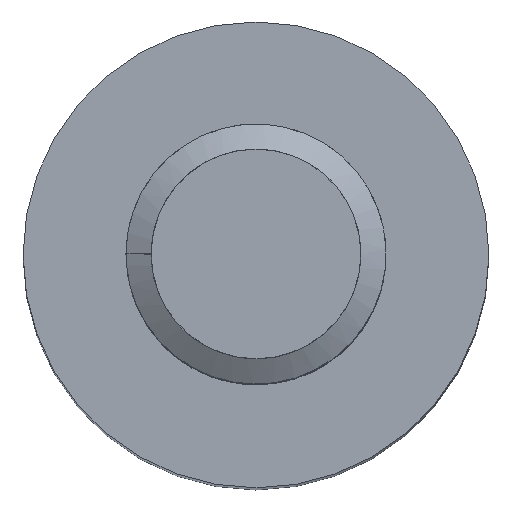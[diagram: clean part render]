
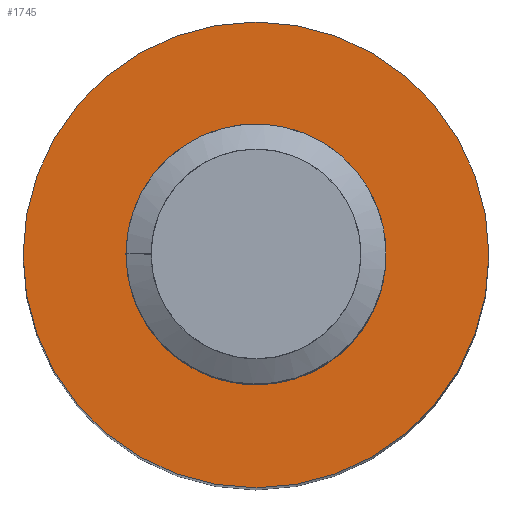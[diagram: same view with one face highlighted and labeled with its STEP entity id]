
A CAD part, top view. The second image highlights one B-rep face of the part: STEP entity #1745.
In plain terms, the highlighted planar face has unit normal (0, 0, 1).
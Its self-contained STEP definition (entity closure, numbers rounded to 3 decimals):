
#20 = DIRECTION ( 'NONE',  ( 0., 0., 1. ) ) ;
#70 = DIRECTION ( 'NONE',  ( 1., 0., 0. ) ) ;
#73 = CARTESIAN_POINT ( 'NONE',  ( -1.128, -2.304, 26.5 ) ) ;
#83 = CARTESIAN_POINT ( 'NONE',  ( 0., 0., 26.5 ) ) ;
#85 = CARTESIAN_POINT ( 'NONE',  ( -2.27, -0.418, 26.5 ) ) ;
#114 = CARTESIAN_POINT ( 'NONE',  ( 1.027, 2.15, 26.5 ) ) ;
#220 = CARTESIAN_POINT ( 'NONE',  ( 0., 2.25, 26.5 ) ) ;
#224 = DIRECTION ( 'NONE',  ( 1., 0., 0. ) ) ;
#286 = CARTESIAN_POINT ( 'NONE',  ( 0.041, -2.695, 26.5 ) ) ;
#306 = CARTESIAN_POINT ( 'NONE',  ( -1.871, -1.588, 26.5 ) ) ;
#307 = CARTESIAN_POINT ( 'NONE',  ( 1.407, -2.439, 26.5 ) ) ;
#342 = CARTESIAN_POINT ( 'NONE',  ( 2.579, -1.068, 26.5 ) ) ;
#368 = CARTESIAN_POINT ( 'NONE',  ( 0., 2.25, 26.5 ) ) ;
#489 = DIRECTION ( 'NONE',  ( 1., 0., 0. ) ) ;
#533 = CARTESIAN_POINT ( 'NONE',  ( -0.949, -2.408, 26.5 ) ) ;
#591 = CARTESIAN_POINT ( 'NONE',  ( 2.639, -0.868, 26.5 ) ) ;
#604 = CARTESIAN_POINT ( 'NONE',  ( 0.415, 2.27, 26.5 ) ) ;
#611 = CARTESIAN_POINT ( 'NONE',  ( 2.628, 0.369, 26.5 ) ) ;
#619 = FACE_BOUND ( 'NONE', #1200, .T. ) ;
#623 = CARTESIAN_POINT ( 'NONE',  ( 0.828, 2.208, 26.5 ) ) ;
#635 = VERTEX_POINT ( 'NONE', #958 ) ;
#642 = EDGE_CURVE ( 'NONE', #1306, #635, #2293, .T. ) ;
#674 = ORIENTED_EDGE ( 'NONE', *, *, #2497, .T. ) ;
#725 = CARTESIAN_POINT ( 'NONE',  ( -1.459, -2.055, 26.5 ) ) ;
#794 = CARTESIAN_POINT ( 'NONE',  ( 2.232, -1.716, 26.5 ) ) ;
#845 = CARTESIAN_POINT ( 'NONE',  ( 2.676, -0.662, 26.5 ) ) ;
#858 = CARTESIAN_POINT ( 'NONE',  ( 1.406, 1.982, 26.5 ) ) ;
#894 = DIRECTION ( 'NONE',  ( 1., 0., 0. ) ) ;
#958 = CARTESIAN_POINT ( 'NONE',  ( -2.25, 0., 26.5 ) ) ;
#960 = EDGE_CURVE ( 'NONE', #2185, #635, #2912, .T. ) ;
#968 = ORIENTED_EDGE ( 'NONE', *, *, #642, .T. ) ;
#970 = CARTESIAN_POINT ( 'NONE',  ( 0., 0., 26.5 ) ) ;
#1009 = CARTESIAN_POINT ( 'NONE',  ( -2.274, -0.208, 26.5 ) ) ;
#1022 = CARTESIAN_POINT ( 'NONE',  ( 2.439, -1.407, 26.5 ) ) ;
#1041 = CARTESIAN_POINT ( 'NONE',  ( 1.068, -2.579, 26.5 ) ) ;
#1098 = CARTESIAN_POINT ( 'NONE',  ( 2.579, -1.068, 26.5 ) ) ;
#1117 = VERTEX_POINT ( 'NONE', #1352 ) ;
#1124 = CARTESIAN_POINT ( 'NONE',  ( 0., 0., 26.5 ) ) ;
#1126 = VERTEX_POINT ( 'NONE', #1824 ) ;
#1134 = AXIS2_PLACEMENT_3D ( 'NONE', #1124, #2111, #894 ) ;
#1200 = EDGE_LOOP ( 'NONE', ( #674, #968, #1267, #2238 ) ) ;
#1267 = ORIENTED_EDGE ( 'NONE', *, *, #960, .F. ) ;
#1287 = CARTESIAN_POINT ( 'NONE',  ( 0.664, -2.676, 26.5 ) ) ;
#1290 = AXIS2_PLACEMENT_3D ( 'NONE', #83, #2271, #70 ) ;
#1297 = CARTESIAN_POINT ( 'NONE',  ( 2.579, -1.068, 26.5 ) ) ;
#1306 = VERTEX_POINT ( 'NONE', #2380 ) ;
#1352 = CARTESIAN_POINT ( 'NONE',  ( -5., 0., 26.5 ) ) ;
#1462 = VERTEX_POINT ( 'NONE', #342 ) ;
#1513 = CARTESIAN_POINT ( 'NONE',  ( 0.252, -2.704, 26.5 ) ) ;
#1522 = CARTESIAN_POINT ( 'NONE',  ( -0.564, -2.572, 26.5 ) ) ;
#1525 = FACE_OUTER_BOUND ( 'NONE', #2104, .T. ) ;
#1552 = CARTESIAN_POINT ( 'NONE',  ( 2.407, 0.951, 26.5 ) ) ;
#1580 = CARTESIAN_POINT ( 'NONE',  ( 0.208, 2.274, 26.5 ) ) ;
#1633 = B_SPLINE_CURVE_WITH_KNOTS ( 'NONE', 3,
 ( #368, #1580, #604, #623, #114, #858, #2551, #3029, #3010, #2061, #1552, #2563, #611, #2583, #2321, #845, #591, #1098 ),
 .UNSPECIFIED., .F., .F.,
 ( 4, 2, 2, 2, 2, 2, 2, 2, 4 ),
 ( 0., 0.001, 0.001, 0.002, 0.002, 0.003, 0.004, 0.004, 0.005 ),
 .UNSPECIFIED. ) ;
#1683 = ORIENTED_EDGE ( 'NONE', *, *, #2339, .T. ) ;
#1689 = AXIS2_PLACEMENT_3D ( 'NONE', #2153, #2386, #224 ) ;
#1704 = CIRCLE ( 'NONE', #2726, 5. ) ;
#1745 = ADVANCED_FACE ( 'NONE', ( #1525, #619 ), #2003, .T. ) ;
#1748 = CARTESIAN_POINT ( 'NONE',  ( -1.611, -1.908, 26.5 ) ) ;
#1824 = CARTESIAN_POINT ( 'NONE',  ( 5., 0., 26.5 ) ) ;
#1984 = CARTESIAN_POINT ( 'NONE',  ( 1.068, -2.579, 26.5 ) ) ;
#1995 = CARTESIAN_POINT ( 'NONE',  ( -1.981, -1.409, 26.5 ) ) ;
#2003 = PLANE ( 'NONE',  #1290 ) ;
#2061 = CARTESIAN_POINT ( 'NONE',  ( 2.303, 1.13, 26.5 ) ) ;
#2104 = EDGE_LOOP ( 'NONE', ( #2613, #1683 ) ) ;
#2111 = DIRECTION ( 'NONE',  ( 0., 0., 1. ) ) ;
#2123 = EDGE_CURVE ( 'NONE', #1117, #1126, #2974, .T. ) ;
#2153 = CARTESIAN_POINT ( 'NONE',  ( 0., 0., 26.5 ) ) ;
#2185 = VERTEX_POINT ( 'NONE', #220 ) ;
#2230 = CARTESIAN_POINT ( 'NONE',  ( -2.149, -1.029, 26.5 ) ) ;
#2238 = ORIENTED_EDGE ( 'NONE', *, *, #2765, .T. ) ;
#2271 = DIRECTION ( 'NONE',  ( 0., 0., 1. ) ) ;
#2293 = B_SPLINE_CURVE_WITH_KNOTS ( 'NONE', 3,
 ( #1041, #2970, #1287, #1513, #286, #2429, #1522, #533, #73, #725, #1748, #306, #1995, #2230, #2477, #85, #1009, #2501 ),
 .UNSPECIFIED., .F., .F.,
 ( 4, 2, 2, 2, 2, 2, 2, 2, 4 ),
 ( 0., 0.001, 0.001, 0.002, 0.002, 0.003, 0.004, 0.004, 0.005 ),
 .UNSPECIFIED. ) ;
#2321 = CARTESIAN_POINT ( 'NONE',  ( 2.704, -0.25, 26.5 ) ) ;
#2339 = EDGE_CURVE ( 'NONE', #1126, #1117, #1704, .T. ) ;
#2380 = CARTESIAN_POINT ( 'NONE',  ( 1.068, -2.579, 26.5 ) ) ;
#2386 = DIRECTION ( 'NONE',  ( 0., 0., 1. ) ) ;
#2429 = CARTESIAN_POINT ( 'NONE',  ( -0.366, -2.629, 26.5 ) ) ;
#2477 = CARTESIAN_POINT ( 'NONE',  ( -2.207, -0.83, 26.5 ) ) ;
#2497 = EDGE_CURVE ( 'NONE', #1462, #1306, #3018, .T. ) ;
#2501 = CARTESIAN_POINT ( 'NONE',  ( -2.25, 0., 26.5 ) ) ;
#2521 = CARTESIAN_POINT ( 'NONE',  ( 1.715, -2.232, 26.5 ) ) ;
#2551 = CARTESIAN_POINT ( 'NONE',  ( 1.586, 1.872, 26.5 ) ) ;
#2563 = CARTESIAN_POINT ( 'NONE',  ( 2.571, 0.567, 26.5 ) ) ;
#2583 = CARTESIAN_POINT ( 'NONE',  ( 2.695, -0.04, 26.5 ) ) ;
#2613 = ORIENTED_EDGE ( 'NONE', *, *, #2123, .T. ) ;
#2726 = AXIS2_PLACEMENT_3D ( 'NONE', #970, #20, #489 ) ;
#2765 = EDGE_CURVE ( 'NONE', #2185, #1462, #1633, .T. ) ;
#2912 = CIRCLE ( 'NONE', #1689, 2.25 ) ;
#2970 = CARTESIAN_POINT ( 'NONE',  ( 0.868, -2.639, 26.5 ) ) ;
#2974 = CIRCLE ( 'NONE', #1134, 5. ) ;
#3010 = CARTESIAN_POINT ( 'NONE',  ( 2.054, 1.46, 26.5 ) ) ;
#3018 = B_SPLINE_CURVE_WITH_KNOTS ( 'NONE', 3,
 ( #1297, #1022, #794, #2521, #307, #1984 ),
 .UNSPECIFIED., .F., .F.,
 ( 4, 2, 4 ),
 ( 0., 0.001, 0.002 ),
 .UNSPECIFIED. ) ;
#3029 = CARTESIAN_POINT ( 'NONE',  ( 1.907, 1.612, 26.5 ) ) ;
